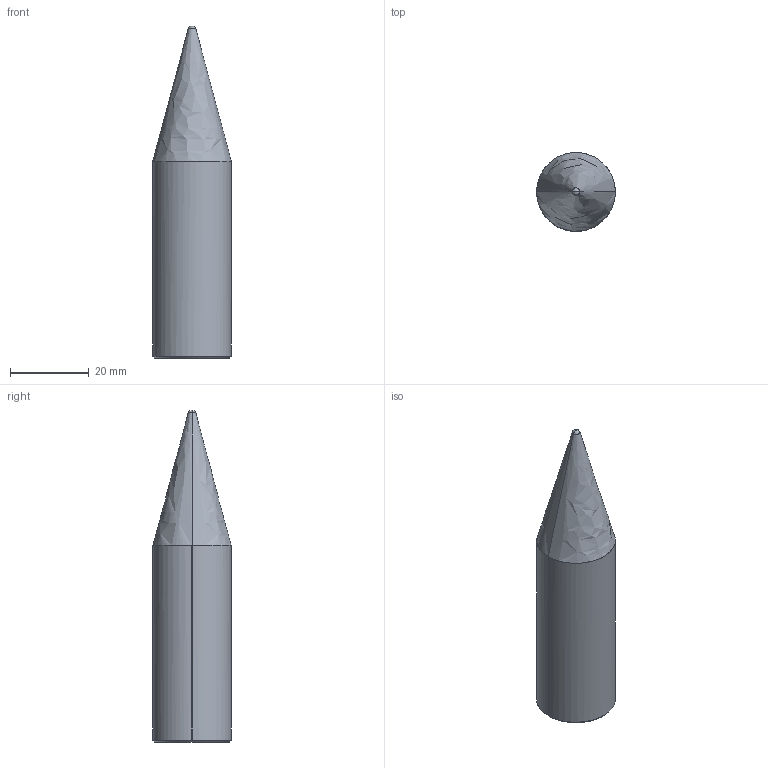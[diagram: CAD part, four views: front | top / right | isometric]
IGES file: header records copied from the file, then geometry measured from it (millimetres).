
Global section: file name: E:\UnigraphicsGraphicData\MISUMI_PRESS-PARTS\IGES\3d_snst20-b50_03116_r00.igs; native system: NX V5.0; preprocessor: UGS NX IGES V5.0; author: MISUMI; date: 20110105.162853; units: millimetre
Bounding box: 20 x 19.97 x 84.46 mm (x, y, z)
Surface area: 5047.2 mm2 (no closed solid volume)
Topology: 0 solids, 0 shells, 12 faces, 64 edges, 62 vertices
Faces by surface type: bspline 12
